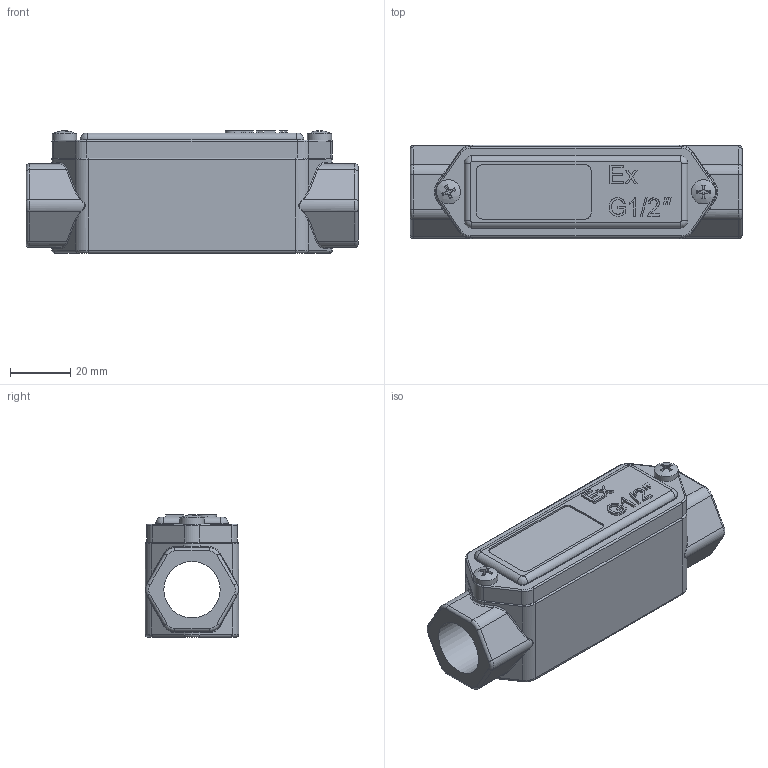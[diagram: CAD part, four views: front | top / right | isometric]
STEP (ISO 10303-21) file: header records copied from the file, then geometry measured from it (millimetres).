
FILE_DESCRIPTION (( 'STEP AP203' ), '1' );
FILE_NAME ('ﾑﾊﾂﾅ-ﾏ1.STEP', '2024-03-06T07:03:59', ( '' ), ( '' ), 'SwSTEP 2.0', 'SolidWorks 2018', '' );
FILE_SCHEMA (( 'CONFIG_CONTROL_DESIGN' ));
Length unit declared in the file: millimetre
Products named in the file (1): ﾑﾊﾂﾅ-ﾏ1
Bounding box: 110 x 31 x 40.57 mm (x, y, z)
Volume: 48241.8 mm3; surface area: 31016.2 mm2
Topology: 1 solids, 6 shells, 380 faces, 937 edges, 581 vertices
Faces by surface type: plane 174, cylinder 112, torus 44, bspline 42, cone 6, sphere 2
Full cylindrical faces by diameter (mm): 3.242 x2, 3.394 x2, 4 x2, 4.5 x2, 8 x2, 18.631 x2
Entity records: 15519 total; most frequent: CARTESIAN_POINT 6692, ORIENTED_EDGE 1820, DIRECTION 1794, EDGE_CURVE 910, AXIS2_PLACEMENT_3D 638, VERTEX_POINT 574, LINE 518, VECTOR 518
